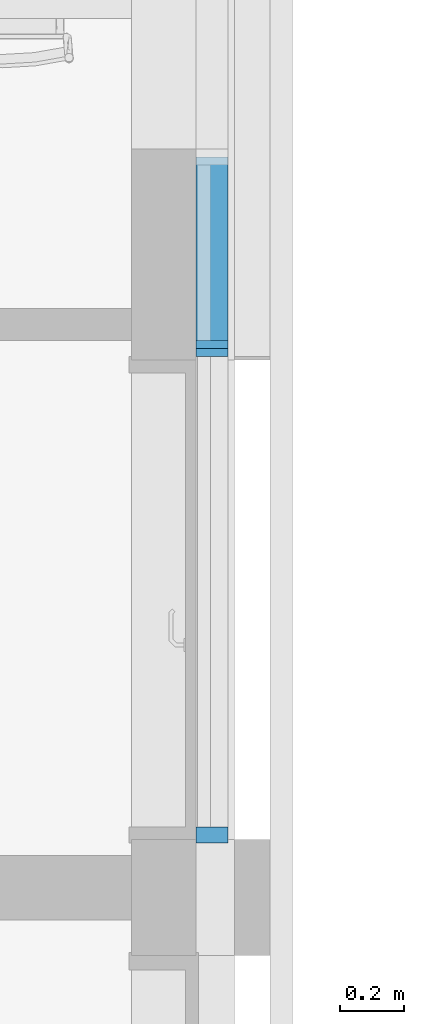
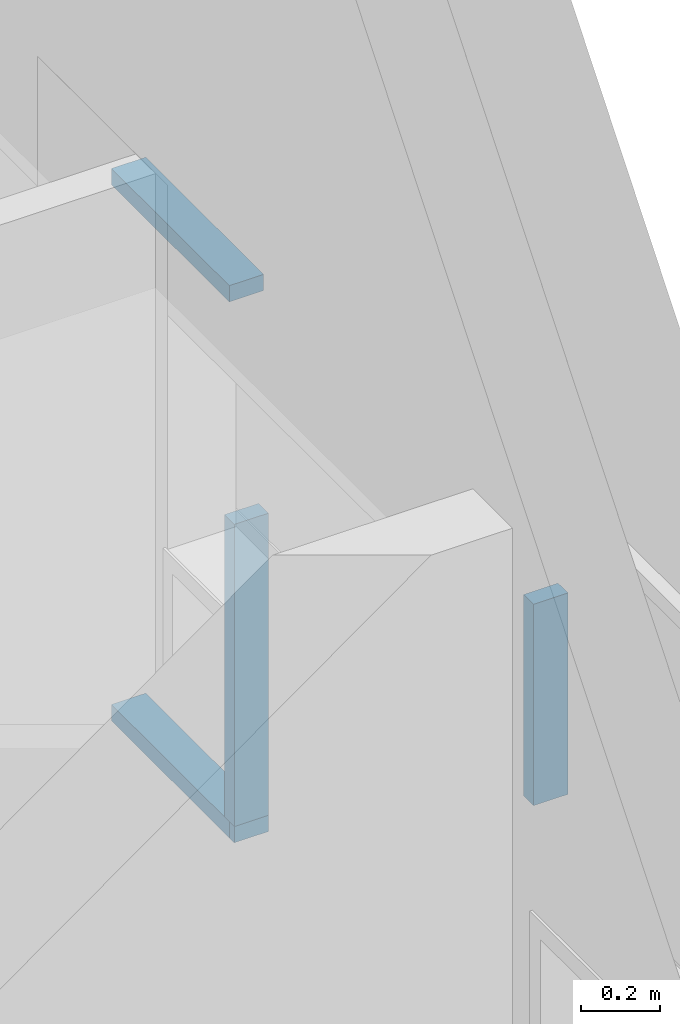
# One storey, part 25 of 137: 5 members, 1 element without a shape of its own.
"""IFC2X3 building model written with IfcOpenShell, lengths in centimetres."""

import ifcopenshell
import ifcopenshell.guid

model = None  # the IFC model being written
_history = None  # IfcOwnerHistory: only IFC2X3 demands one
_inside = {}  # id of a spatial element -> (the spatial element, [elements in it])
_under = {}  # id of a project, library or spatial element -> (it, [spatial elements below it])
_declared = {}  # id of a project -> (the project, [libraries it declares])
_typed = {}  # id of a type object -> (the type object, [elements of that type])
_made_of = {}  # id of a material, layer set ... -> (it, [elements and type objects made of it])


def new_model(schema):
    """Start an empty IFC model of exactly this schema.

    Asked for "IFC4X3", IfcOpenShell would pick the latest addendum, in which some entities
    have other attributes; the version numbers below select the first issue.
    IFC2X3 requires an IfcOwnerHistory on every rooted entity: one is made here for all.
    """
    global model, _history
    if schema == "IFC4X3":
        model = ifcopenshell.file(schema_version=(4, 3, 0, 0))
    else:
        model = ifcopenshell.file(schema=schema)
    _inside.clear()
    _under.clear()
    _declared.clear()
    _typed.clear()
    _made_of.clear()
    _history = None
    if model.schema == "IFC2X3":
        org = make("IfcOrganization", Name="unknown")
        user = make(
            "IfcPersonAndOrganization",
            ThePerson=make("IfcPerson", FamilyName="unknown"),
            TheOrganization=org,
        )
        app = make(
            "IfcApplication",
            ApplicationDeveloper=org,
            Version="unknown",
            ApplicationFullName="unknown",
            ApplicationIdentifier="unknown",
        )
        _history = make(
            "IfcOwnerHistory",
            OwningUser=user,
            OwningApplication=app,
            ChangeAction="ADDED",
            CreationDate=0,
        )
    return model


def make(cls, **values):
    """One entity of the class cls with the attributes given. An attribute that is None is left unset."""
    return model.create_entity(
        cls, **{name: value for name, value in values.items() if value is not None}
    )


def entity(cls, *values):
    """Any entity or typed value of the class cls, its attributes in the order of the schema. None: left unset."""
    e = model.create_entity(cls)
    for i, value in enumerate(values):
        if value is not None:
            e[i] = value
    return e


def rooted(cls, **values):
    """An entity with a GlobalId (a new one), such as an element, a storey or a relation."""
    return make(cls, GlobalId=ifcopenshell.guid.new(), OwnerHistory=_history, **values)


def si_unit(unit_type, name, prefix=None):
    """IfcSIUnit, for example si_unit("LENGTHUNIT", "METRE", prefix="MILLI")."""
    return make("IfcSIUnit", UnitType=unit_type, Prefix=prefix, Name=name)


def converted_unit(unit_type, name, factor, base, dimensions=None, offset=None):
    """IfcConversionBasedUnit, such as the inch: factor (a typed value) times the base unit."""
    return make(
        "IfcConversionBasedUnit"
        if offset is None
        else "IfcConversionBasedUnitWithOffset",
        ConversionOffset=offset,
        Dimensions=None
        if dimensions is None
        else entity("IfcDimensionalExponents", *dimensions),
        UnitType=unit_type,
        Name=name,
        ConversionFactor=make(
            "IfcMeasureWithUnit", ValueComponent=factor, UnitComponent=base
        ),
    )


def derived_unit(unit_type, elements):
    """IfcDerivedUnit: a product of units, each with its exponent."""
    return make(
        "IfcDerivedUnit",
        Elements=[
            make("IfcDerivedUnitElement", Unit=unit, Exponent=power)
            for unit, power in elements
        ],
        UnitType=unit_type,
    )


def assignment(units):
    """IfcUnitAssignment: the units of a project."""
    return None if units is None else make("IfcUnitAssignment", Units=units)


def point(xyz):
    """IfcCartesianPoint."""
    return None if xyz is None else make("IfcCartesianPoint", Coordinates=xyz)


def direction(xyz):
    """IfcDirection."""
    return None if xyz is None else make("IfcDirection", DirectionRatios=xyz)


def frame(location, z_axis=None, x_axis=None):
    """IfcAxis2Placement3D, a coordinate frame: its origin and axes. An axis left out is left unset."""
    return make(
        "IfcAxis2Placement3D",
        Location=point(location),
        Axis=direction(z_axis),
        RefDirection=direction(x_axis),
    )


def frame_2d(location, x_axis=None):
    """IfcAxis2Placement2D, a coordinate frame in the plane: its origin and x axis."""
    return make(
        "IfcAxis2Placement2D", Location=point(location), RefDirection=direction(x_axis)
    )


def origin():
    """The frame at (0, 0, 0) with its axes left unset."""
    return frame((0.0, 0.0, 0.0))


def origin_2d_with_axis():
    """The frame at (0, 0) in the plane with the x axis (1, 0) written out."""
    return frame_2d((0.0, 0.0), x_axis=(1.0, 0.0))


def place(relative_to, where):
    """IfcLocalPlacement: puts the frame where relative to a parent placement (None: the world)."""
    return make(
        "IfcLocalPlacement", PlacementRelTo=relative_to, RelativePlacement=where
    )


def context(
    kind, dimensions, precision=None, world=None, true_north=None, identifier=None
):
    """IfcGeometricRepresentationContext, for example the 3D "Model" context."""
    return make(
        "IfcGeometricRepresentationContext",
        ContextIdentifier=identifier,
        ContextType=kind,
        CoordinateSpaceDimension=dimensions,
        Precision=precision,
        WorldCoordinateSystem=world,
        TrueNorth=true_north,
    )


def subcontext(parent, identifier, kind, view, scale=None):
    """IfcGeometricRepresentationSubContext, for example "Body" below "Model"."""
    return make(
        "IfcGeometricRepresentationSubContext",
        ContextIdentifier=identifier,
        ContextType=kind,
        ParentContext=parent,
        TargetScale=scale,
        TargetView=view,
    )


def project(units=None, contexts=None):
    """IfcProject with its units and contexts."""
    return rooted(
        "IfcProject",
        Name="project",
        RepresentationContexts=contexts,
        UnitsInContext=assignment(units),
    )


def spatial(cls, under=None, at=None, **own):
    """A site, building, storey or space (cls), placed at a placement, below another one or the project."""
    s = rooted(cls, ObjectPlacement=at, **own)
    if under is not None:
        _under.setdefault(under.id(), (under, []))[1].append(s)
    return s


def profile(cls, at=None, kind="AREA", **sizes):
    """A parametric profile (cls). Its sizes go by their IFC names, for example OverallWidth=200.0."""
    return make(cls, ProfileType=kind, Position=at, **sizes)


def rectangle(**sizes):
    """IfcRectangleProfileDef."""
    return profile("IfcRectangleProfileDef", **sizes)


def extrude(swept, where, along, depth):
    """IfcExtrudedAreaSolid: the profile swept, set in the frame where, extruded along a direction by depth."""
    return make(
        "IfcExtrudedAreaSolid",
        SweptArea=swept,
        Position=where,
        ExtrudedDirection=direction(along),
        Depth=depth,
    )


def shape(context_of_items, identifier, shape_type, items):
    """IfcShapeRepresentation: the items that make up one representation, for example the "Body"."""
    return make(
        "IfcShapeRepresentation",
        ContextOfItems=context_of_items,
        RepresentationIdentifier=identifier,
        RepresentationType=shape_type,
        Items=items,
    )


def material(Name=None, Category=None):
    """IfcMaterial."""
    return make("IfcMaterial", Name=Name, Category=Category)


def made_of(thing, what):
    """Note that an element or type object is made of a material, layer set ...; save() writes the relation."""
    if what is not None:
        _made_of.setdefault(what.id(), (what, []))[1].append(thing)
    return thing


def type_object(cls, material=None, **own):
    """A type object (cls), such as IfcWallType, which elements share."""
    return made_of(rooted(cls, **own), material)


def element(
    cls,
    number,
    at=None,
    inside=None,
    cuts=None,
    type_object=None,
    material=None,
    context=None,
    identifier="Body",
    shape_type=None,
    held_by="IfcProductDefinitionShape",
    body=None,
    shapes=None,
    **own,
):
    """One element of the class cls, such as IfcWall. Its Tag is "e" and its number.

    at: its placement. inside: the storey or other place that contains it. cuts: it is an
    opening in that element (IfcRelVoidsElement). A single representation is given by context,
    identifier, shape_type and body (its items); several are given by shapes. held_by: the class
    of the entity that holds the representations. save() writes the other relations.
    """
    e = rooted(cls, Tag="e%d" % number, ObjectPlacement=at, **own)
    if body is not None:
        shapes = [shape(context, identifier, shape_type, body)]
    if shapes is not None:
        e.Representation = make(held_by, Representations=shapes)
    if inside is not None:
        _inside.setdefault(inside.id(), (inside, []))[1].append(e)
    if cuts is not None:
        rooted(
            "IfcRelVoidsElement", RelatingBuildingElement=cuts, RelatedOpeningElement=e
        )
    if type_object is not None:
        _typed.setdefault(type_object.id(), (type_object, []))[1].append(e)
    return made_of(e, material)


def aggregate(whole, parts):
    """IfcRelAggregates: a whole, such as a stair, and the parts it consists of."""
    return rooted("IfcRelAggregates", RelatingObject=whole, RelatedObjects=parts)


def save(model, path):
    """Write the relations noted so far, then the file.

    IfcRelAggregates (storeys below a building ...), IfcRelContainedInSpatialStructure (elements
    in a storey), IfcRelDefinesByType, IfcRelAssociatesMaterial and IfcRelDeclares: one each for
    every whole, place, type object, material and project.
    """
    for whole, parts in _under.values():
        aggregate(whole, parts)
    for where, things in _inside.values():
        rooted(
            "IfcRelContainedInSpatialStructure",
            RelatedElements=things,
            RelatingStructure=where,
        )
    for kind, things in _typed.values():
        rooted("IfcRelDefinesByType", RelatedObjects=things, RelatingType=kind)
    for what, things in _made_of.values():
        rooted("IfcRelAssociatesMaterial", RelatedObjects=things, RelatingMaterial=what)
    for by, libraries in _declared.values():
        rooted("IfcRelDeclares", RelatingContext=by, RelatedDefinitions=libraries)
    model.write(path)


model = new_model("IFC2X3")

# Units and contexts
model_context = context("Model", 3, precision=0.001, world=origin(), true_north=direction((6.12303176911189e-17, 1.0)))
body_context = subcontext(model_context, "Body", "Model", "MODEL_VIEW")
ifc_project = project(units=[si_unit("LENGTHUNIT", "METRE", prefix="CENTI"), si_unit("AREAUNIT", "SQUARE_METRE"), si_unit("VOLUMEUNIT", "CUBIC_METRE"), converted_unit("PLANEANGLEUNIT", "DEGREE", entity("IfcRatioMeasure", 0.0174532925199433), si_unit("PLANEANGLEUNIT", "RADIAN"), dimensions=[0, 0, 0, 0, 0, 0, 0]), si_unit("MASSUNIT", "GRAM", prefix="KILO"), si_unit("TIMEUNIT", "SECOND"), si_unit("FREQUENCYUNIT", "HERTZ"), si_unit("THERMODYNAMICTEMPERATUREUNIT", "DEGREE_CELSIUS"), derived_unit("THERMALTRANSMITTANCEUNIT", [(si_unit("MASSUNIT", "GRAM", prefix="KILO"), 1), (si_unit("THERMODYNAMICTEMPERATUREUNIT", "KELVIN"), -1), (si_unit("TIMEUNIT", "SECOND"), -3)]), derived_unit("VOLUMETRICFLOWRATEUNIT", [(si_unit("LENGTHUNIT", "METRE"), 3), (si_unit("TIMEUNIT", "SECOND"), -1)]), si_unit("ELECTRICCURRENTUNIT", "AMPERE"), si_unit("ELECTRICVOLTAGEUNIT", "VOLT"), si_unit("POWERUNIT", "WATT"), si_unit("FORCEUNIT", "NEWTON", prefix="KILO"), si_unit("ILLUMINANCEUNIT", "LUX"), si_unit("LUMINOUSFLUXUNIT", "LUMEN"), si_unit("LUMINOUSINTENSITYUNIT", "CANDELA"), derived_unit("USERDEFINED", [(si_unit("MASSUNIT", "GRAM", prefix="KILO"), -1), (si_unit("LENGTHUNIT", "METRE"), -2), (si_unit("TIMEUNIT", "SECOND"), 3), (si_unit("LUMINOUSFLUXUNIT", "LUMEN"), 1)]), derived_unit("LINEARVELOCITYUNIT", [(si_unit("LENGTHUNIT", "METRE"), 1), (si_unit("TIMEUNIT", "SECOND"), -1)]), si_unit("PRESSUREUNIT", "PASCAL"), derived_unit("USERDEFINED", [(si_unit("LENGTHUNIT", "METRE"), -2), (si_unit("MASSUNIT", "GRAM", prefix="KILO"), 1), (si_unit("TIMEUNIT", "SECOND"), -2)])], contexts=[model_context])

# Site, building, storey
site_placement = place(None, frame((8.62739174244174, -249.285249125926, 0.0)))
site = spatial("IfcSite", under=ifc_project, at=site_placement, Name="Default", CompositionType="ELEMENT")
building_placement = place(site_placement, origin())
building = spatial("IfcBuilding", under=site, at=building_placement, CompositionType="ELEMENT")
storey_placement = place(building_placement, origin())
storey = spatial("IfcBuildingStorey", under=building, at=storey_placement, Name="RDC", CompositionType="ELEMENT", Elevation=-8.82465566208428e-11)

# Curtain wall, members
curtain_wall_type = type_object("IfcCurtainWallType", Name="Mur-rideau:Simple panneau", PredefinedType="NOTDEFINED")
curtain_wall_placement = place(storey_placement, origin())
curtain_wall = element("IfcCurtainWall", 1, at=curtain_wall_placement, inside=storey, type_object=curtain_wall_type, Name="Mur-rideau:Simple panneau", ObjectType="Mur-rideau:Simple panneau")
ifc_material = material(Name="Plastique, blanc opaque")
member_1_placement = place(curtain_wall_placement, origin())
member_1 = element("IfcMember", 2, at=member_1_placement, material=ifc_material, Name="Mur-rideau:Simple panneau", ObjectType="Mur-rideau:Simple panneau", context=body_context, shape_type="SweptSolid", body=[
    extrude(rectangle(XDim=5.0, YDim=9.99999999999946, at=origin_2d_with_axis()), frame((4003.90482781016, 5254.9802081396, 112.500000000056), z_axis=(0.0, -1.0, 0.0), x_axis=(0.0, 0.0, -1.0)), (0.0, 0.0, 1.0), 59.5000000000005),
])
member_2_placement = place(curtain_wall_placement, origin())
member_2 = element("IfcMember", 3, at=member_2_placement, material=ifc_material, Name="Mur-rideau:Simple panneau", ObjectType="Mur-rideau:Simple panneau", context=body_context, shape_type="SweptSolid", body=[
    extrude(rectangle(XDim=9.99999999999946, YDim=4.99999999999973, at=frame_2d((0.0, -4.33209024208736e-13), x_axis=(1.0, 0.0))), frame((4003.90482781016, 5195.4802081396, 115.0), z_axis=(0.0, 0.0, 1.0), x_axis=(-1.0, 0.0, 0.0)), (0.0, 0.0, 1.0), 93.0),
])
member_3_placement = place(curtain_wall_placement, origin())
member_3 = element("IfcMember", 4, at=member_3_placement, material=ifc_material, Name="Mur-rideau:Simple panneau", ObjectType="Mur-rideau:Simple panneau", context=body_context, shape_type="SweptSolid", body=[
    extrude(rectangle(XDim=5.0, YDim=9.99999999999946, at=origin_2d_with_axis()), frame((4003.90482781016, 5195.4802081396, 112.500000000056), z_axis=(0.0, -1.0, 0.0), x_axis=(0.0, 0.0, -1.0)), (0.0, 0.0, 1.0), 2.50000000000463),
])
member_4_placement = place(curtain_wall_placement, origin())
member_4 = element("IfcMember", 5, at=member_4_placement, material=ifc_material, Name="Mur-rideau:Simple panneau", ObjectType="Mur-rideau:Simple panneau", context=body_context, shape_type="SweptSolid", body=[
    extrude(rectangle(XDim=5.0, YDim=9.99999999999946, at=frame_2d((2.70894418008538e-14, 0.0), x_axis=(1.0, 0.0))), frame((4003.90482781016, 5195.4802081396, 277.500000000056), z_axis=(0.0, 1.0, 0.0), x_axis=(0.0, 0.0, -1.0)), (0.0, 0.0, 1.0), 59.5000000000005),
])
member_5_placement = place(curtain_wall_placement, origin())
member_5 = element("IfcMember", 6, at=member_5_placement, material=ifc_material, Name="Mur-rideau:Simple panneau", ObjectType="Mur-rideau:Simple panneau", context=body_context, shape_type="SweptSolid", body=[
    extrude(rectangle(XDim=9.99999999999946, YDim=4.99999999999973, at=frame_2d((0.0, -4.33209024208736e-13), x_axis=(1.0, 0.0))), frame((4003.90482781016, 5044.48020813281, 213.0), z_axis=(0.0, 0.0, 1.0), x_axis=(-1.0, 0.0, 0.0)), (0.0, 0.0, 1.0), 62.0),
])
aggregate(curtain_wall, [member_1, member_2, member_3, member_4, member_5])

save(model, "model.ifc")
